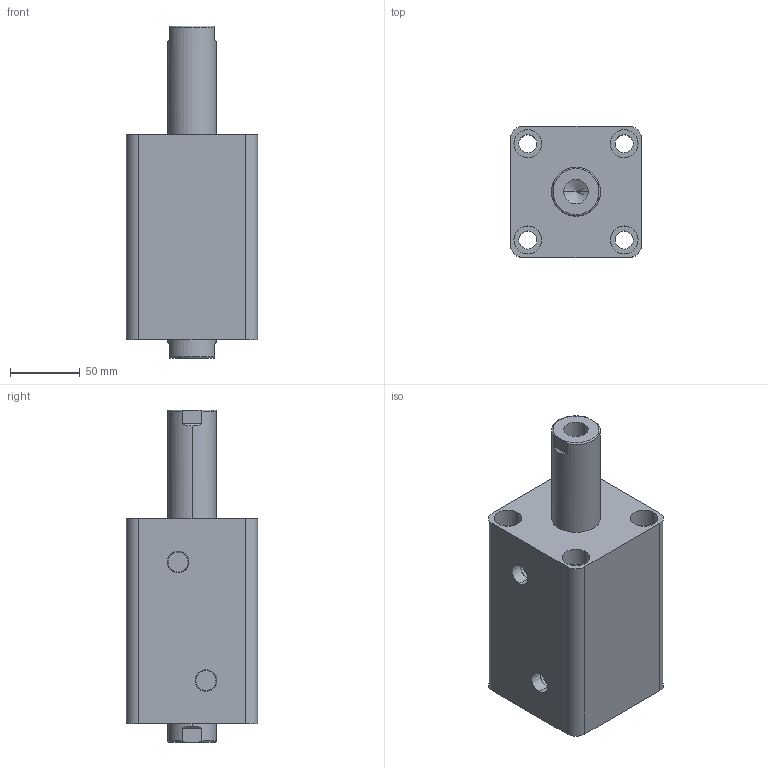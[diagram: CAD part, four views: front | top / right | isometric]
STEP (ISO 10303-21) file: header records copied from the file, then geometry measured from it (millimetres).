
FILE_DESCRIPTION (( 'STEP AP203' ), '1' );
FILE_NAME ('HTB-SW63-65N.STEP', '2019-10-07T10:06:46', ( '微软用户' ), ( '微软中国' ), 'SwSTEP 2.0', 'SolidWorks 2012', '' );
FILE_SCHEMA (( 'CONFIG_CONTROL_DESIGN' ));
Length unit declared in the file: millimetre
Products named in the file (3): HTB-SW63-65N; HTB-SW63-65N活塞杆; HTB-SW63-65掛极
Assembly tree (2 placements, depth 2):
  HTB-SW63-65N
    HTB-SW63-65掛极
    HTB-SW63-65N活塞杆
Bounding box: 94 x 94 x 238 mm (x, y, z)
Volume: 1124418.2 mm3; surface area: 158810.1 mm2
Topology: 2 solids, 2 shells, 100 faces, 228 edges, 146 vertices
Faces by surface type: cylinder 48, plane 32, torus 12, cone 8
Entity records: 3253 total; most frequent: CARTESIAN_POINT 611, DIRECTION 542, ORIENTED_EDGE 448, AXIS2_PLACEMENT_3D 229, EDGE_CURVE 224, VERTEX_POINT 146, EDGE_LOOP 128, CIRCLE 124
